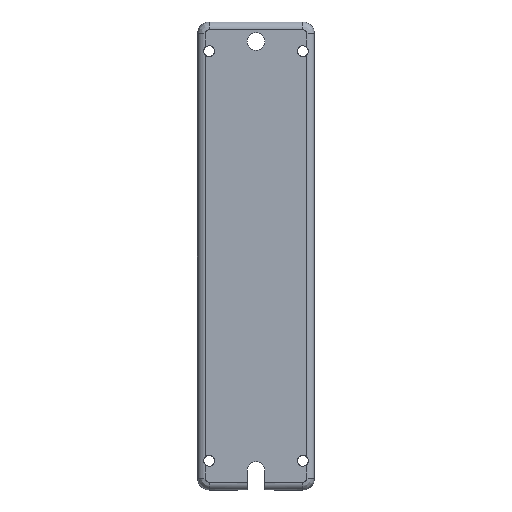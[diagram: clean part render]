
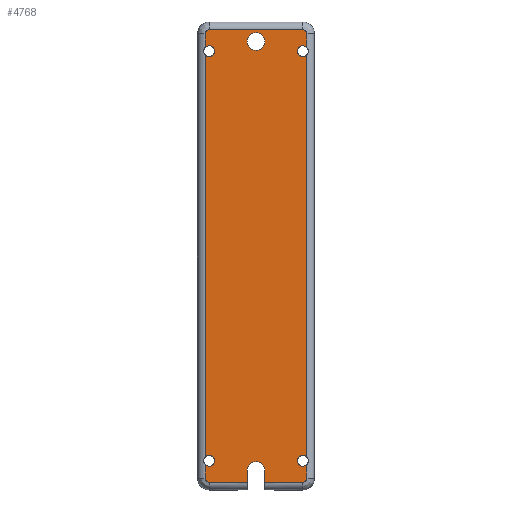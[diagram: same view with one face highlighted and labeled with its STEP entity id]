
A CAD part, front view. The second image highlights one B-rep face of the part: STEP entity #4768.
In plain terms, the highlighted planar face has unit normal (0, -1, 0).
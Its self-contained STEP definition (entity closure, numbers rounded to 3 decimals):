
#638=CARTESIAN_POINT('',(13.,0.,-53.48));
#865=DIRECTION('',(-1.,0.,0.));
#866=VECTOR('',#865,24.);
#867=CARTESIAN_POINT('',(12.,0.,58.));
#868=LINE('',#867,#866);
#1033=CARTESIAN_POINT('',(0.,0.,55.));
#1034=DIRECTION('',(0.,1.,0.));
#1035=DIRECTION('',(0.,0.,1.));
#1036=AXIS2_PLACEMENT_3D('',#1033,#1034,#1035);
#1038=CARTESIAN_POINT('',(0.,0.,55.));
#1039=DIRECTION('',(0.,1.,0.));
#1040=DIRECTION('',(0.,0.,-1.));
#1041=AXIS2_PLACEMENT_3D('',#1038,#1039,#1040);
#1043=DIRECTION('',(-1.,0.,0.));
#1044=VECTOR('',#1043,9.75);
#1045=CARTESIAN_POINT('',(12.,0.,-58.));
#1046=LINE('',#1045,#1044);
#1047=DIRECTION('',(0.,0.,1.));
#1048=VECTOR('',#1047,3.);
#1049=CARTESIAN_POINT('',(2.25,0.,-58.));
#1050=LINE('',#1049,#1048);
#1051=CARTESIAN_POINT('',(0.,0.,-55.));
#1052=DIRECTION('',(0.,1.,0.));
#1053=DIRECTION('',(-1.,0.,0.));
#1054=AXIS2_PLACEMENT_3D('',#1051,#1052,#1053);
#1056=DIRECTION('',(0.,0.,1.));
#1057=VECTOR('',#1056,3.);
#1058=CARTESIAN_POINT('',(-2.25,0.,-58.));
#1059=LINE('',#1058,#1057);
#1060=DIRECTION('',(-1.,0.,0.));
#1061=VECTOR('',#1060,9.75);
#1062=CARTESIAN_POINT('',(-2.25,0.,-58.));
#1063=LINE('',#1062,#1061);
#1064=CARTESIAN_POINT('',(-12.,0.,-57.));
#1065=DIRECTION('',(0.,1.,0.));
#1066=DIRECTION('',(0.,0.,-1.));
#1067=AXIS2_PLACEMENT_3D('',#1064,#1065,#1066);
#1069=DIRECTION('',(0.,0.,1.));
#1070=VECTOR('',#1069,3.52);
#1071=CARTESIAN_POINT('',(-13.,0.,-57.));
#1072=LINE('',#1071,#1070);
#1073=CARTESIAN_POINT('',(-12.,0.,-52.5));
#1074=DIRECTION('',(0.,1.,0.));
#1075=DIRECTION('',(1.,0.,0.));
#1076=AXIS2_PLACEMENT_3D('',#1073,#1074,#1075);
#1078=CARTESIAN_POINT('',(-12.,0.,-52.5));
#1079=DIRECTION('',(0.,1.,0.));
#1080=DIRECTION('',(-0.714,0.,0.7));
#1081=AXIS2_PLACEMENT_3D('',#1078,#1079,#1080);
#1083=DIRECTION('',(0.,0.,1.));
#1084=VECTOR('',#1083,103.04);
#1085=CARTESIAN_POINT('',(-13.,0.,-51.52));
#1086=LINE('',#1085,#1084);
#1087=CARTESIAN_POINT('',(-12.,0.,52.5));
#1088=DIRECTION('',(0.,1.,0.));
#1089=DIRECTION('',(1.,0.,0.));
#1090=AXIS2_PLACEMENT_3D('',#1087,#1088,#1089);
#1092=CARTESIAN_POINT('',(-12.,0.,52.5));
#1093=DIRECTION('',(0.,1.,0.));
#1094=DIRECTION('',(-0.714,0.,0.7));
#1095=AXIS2_PLACEMENT_3D('',#1092,#1093,#1094);
#1097=DIRECTION('',(0.,0.,1.));
#1098=VECTOR('',#1097,3.52);
#1099=CARTESIAN_POINT('',(-13.,0.,53.48));
#1100=LINE('',#1099,#1098);
#1101=CARTESIAN_POINT('',(-12.,0.,57.));
#1102=DIRECTION('',(0.,1.,0.));
#1103=DIRECTION('',(-1.,0.,0.));
#1104=AXIS2_PLACEMENT_3D('',#1101,#1102,#1103);
#1106=CARTESIAN_POINT('',(12.,0.,57.));
#1107=DIRECTION('',(0.,1.,0.));
#1108=DIRECTION('',(0.,0.,1.));
#1109=AXIS2_PLACEMENT_3D('',#1106,#1107,#1108);
#1111=DIRECTION('',(0.,0.,-1.));
#1112=VECTOR('',#1111,3.52);
#1113=CARTESIAN_POINT('',(13.,0.,57.));
#1114=LINE('',#1113,#1112);
#1115=CARTESIAN_POINT('',(12.,0.,52.5));
#1116=DIRECTION('',(0.,1.,0.));
#1117=DIRECTION('',(-1.,0.,0.));
#1118=AXIS2_PLACEMENT_3D('',#1115,#1116,#1117);
#1120=CARTESIAN_POINT('',(12.,0.,52.5));
#1121=DIRECTION('',(0.,1.,0.));
#1122=DIRECTION('',(0.714,0.,-0.7));
#1123=AXIS2_PLACEMENT_3D('',#1120,#1121,#1122);
#1125=DIRECTION('',(0.,0.,-1.));
#1126=VECTOR('',#1125,103.04);
#1127=CARTESIAN_POINT('',(13.,0.,51.52));
#1128=LINE('',#1127,#1126);
#1129=CARTESIAN_POINT('',(12.,0.,-52.5));
#1130=DIRECTION('',(0.,1.,0.));
#1131=DIRECTION('',(-1.,0.,0.));
#1132=AXIS2_PLACEMENT_3D('',#1129,#1130,#1131);
#1134=CARTESIAN_POINT('',(12.,0.,-52.5));
#1135=DIRECTION('',(0.,1.,0.));
#1136=DIRECTION('',(0.714,0.,-0.7));
#1137=AXIS2_PLACEMENT_3D('',#1134,#1135,#1136);
#1139=DIRECTION('',(0.,0.,-1.));
#1140=VECTOR('',#1139,3.52);
#1141=CARTESIAN_POINT('',(13.,0.,-53.48));
#1142=LINE('',#1141,#1140);
#1143=CARTESIAN_POINT('',(12.,0.,-57.));
#1144=DIRECTION('',(0.,1.,0.));
#1145=DIRECTION('',(1.,0.,0.));
#1146=AXIS2_PLACEMENT_3D('',#1143,#1144,#1145);
#1593=CARTESIAN_POINT('',(-13.,0.,-53.48));
#1615=CARTESIAN_POINT('',(-13.,0.,51.52));
#1636=CARTESIAN_POINT('',(-13.,0.,53.48));
#1643=CARTESIAN_POINT('',(13.,0.,53.48));
#1665=CARTESIAN_POINT('',(13.,0.,-51.52));
#2838=CARTESIAN_POINT('',(0.,0.,57.25));
#2839=CARTESIAN_POINT('',(0.,0.,52.75));
#2840=VERTEX_POINT('',#2838);
#2841=VERTEX_POINT('',#2839);
#2842=CARTESIAN_POINT('',(-2.25,0.,-55.));
#2843=CARTESIAN_POINT('',(2.25,0.,-55.));
#2844=VERTEX_POINT('',#2842);
#2845=VERTEX_POINT('',#2843);
#2902=CARTESIAN_POINT('',(-10.6,0.,52.5));
#2903=VERTEX_POINT('',#2902);
#2904=CARTESIAN_POINT('',(10.6,0.,52.5));
#2905=VERTEX_POINT('',#2904);
#2906=CARTESIAN_POINT('',(-10.6,0.,-52.5));
#2907=VERTEX_POINT('',#2906);
#2908=CARTESIAN_POINT('',(10.6,0.,-52.5));
#2909=VERTEX_POINT('',#2908);
#3111=CARTESIAN_POINT('',(2.25,0.,-58.));
#3113=VERTEX_POINT('',#3111);
#3114=CARTESIAN_POINT('',(12.,0.,-58.));
#3115=VERTEX_POINT('',#3114);
#3120=CARTESIAN_POINT('',(13.,0.,-57.));
#3121=VERTEX_POINT('',#3120);
#3123=VERTEX_POINT('',#638);
#3124=VERTEX_POINT('',#1665);
#3125=CARTESIAN_POINT('',(13.,0.,51.52));
#3126=VERTEX_POINT('',#3125);
#3128=VERTEX_POINT('',#1643);
#3129=CARTESIAN_POINT('',(13.,0.,57.));
#3130=VERTEX_POINT('',#3129);
#3135=CARTESIAN_POINT('',(12.,0.,58.));
#3136=VERTEX_POINT('',#3135);
#3141=CARTESIAN_POINT('',(-13.,0.,57.));
#3142=CARTESIAN_POINT('',(-12.,0.,58.));
#3143=VERTEX_POINT('',#3141);
#3144=VERTEX_POINT('',#3142);
#3146=VERTEX_POINT('',#1636);
#3147=VERTEX_POINT('',#1615);
#3148=CARTESIAN_POINT('',(-13.,0.,-51.52));
#3149=VERTEX_POINT('',#3148);
#3151=CARTESIAN_POINT('',(-2.25,0.,-58.));
#3153=VERTEX_POINT('',#3151);
#3155=CARTESIAN_POINT('',(-12.,0.,-58.));
#3156=VERTEX_POINT('',#3155);
#3161=CARTESIAN_POINT('',(-13.,0.,-57.));
#3162=VERTEX_POINT('',#3161);
#3163=VERTEX_POINT('',#1593);
#4717=CARTESIAN_POINT('',(-15.,0.,60.));
#4718=DIRECTION('',(0.,-1.,0.));
#4719=DIRECTION('',(0.,0.,-1.));
#4720=AXIS2_PLACEMENT_3D('',#4717,#4718,#4719);
#4721=PLANE('',#4720);
#4723=ORIENTED_EDGE('',*,*,#4722,.T.);
#4725=ORIENTED_EDGE('',*,*,#4724,.T.);
#4727=ORIENTED_EDGE('',*,*,#4726,.F.);
#4729=ORIENTED_EDGE('',*,*,#4728,.F.);
#4731=ORIENTED_EDGE('',*,*,#4730,.T.);
#4733=ORIENTED_EDGE('',*,*,#4732,.T.);
#4734=ORIENTED_EDGE('',*,*,#4455,.T.);
#4736=ORIENTED_EDGE('',*,*,#4735,.F.);
#4738=ORIENTED_EDGE('',*,*,#4737,.F.);
#4739=ORIENTED_EDGE('',*,*,#4449,.T.);
#4741=ORIENTED_EDGE('',*,*,#4740,.F.);
#4743=ORIENTED_EDGE('',*,*,#4742,.F.);
#4744=ORIENTED_EDGE('',*,*,#4443,.T.);
#4745=ORIENTED_EDGE('',*,*,#4482,.T.);
#4746=ORIENTED_EDGE('',*,*,#4497,.F.);
#4748=ORIENTED_EDGE('',*,*,#4747,.T.);
#4749=ORIENTED_EDGE('',*,*,#4230,.T.);
#4751=ORIENTED_EDGE('',*,*,#4750,.F.);
#4753=ORIENTED_EDGE('',*,*,#4752,.F.);
#4754=ORIENTED_EDGE('',*,*,#4224,.T.);
#4756=ORIENTED_EDGE('',*,*,#4755,.F.);
#4757=ORIENTED_EDGE('',*,*,#4200,.F.);
#4758=ORIENTED_EDGE('',*,*,#4219,.T.);
#4760=ORIENTED_EDGE('',*,*,#4759,.T.);
#4761=EDGE_LOOP('',(#4723,#4725,#4727,#4729,#4731,#4733,#4734,#4736,#4738,#4739,
#4741,#4743,#4744,#4745,#4746,#4748,#4749,#4751,#4753,#4754,#4756,#4757,#4758,
#4760));
#4762=FACE_OUTER_BOUND('',#4761,.F.);
#4763=ORIENTED_EDGE('',*,*,#4707,.F.);
#4765=ORIENTED_EDGE('',*,*,#4764,.F.);
#4766=EDGE_LOOP('',(#4763,#4765));
#4767=FACE_BOUND('',#4766,.F.);
#4768=ADVANCED_FACE('',(#4762,#4767),#4721,.T.);
#1037=CIRCLE('',#1036,2.25);
#1042=CIRCLE('',#1041,2.25);
#1055=CIRCLE('',#1054,2.25);
#1068=CIRCLE('',#1067,1.);
#1077=CIRCLE('',#1076,1.4);
#1082=CIRCLE('',#1081,1.4);
#1091=CIRCLE('',#1090,1.4);
#1096=CIRCLE('',#1095,1.4);
#1105=CIRCLE('',#1104,1.);
#1110=CIRCLE('',#1109,1.);
#1119=CIRCLE('',#1118,1.4);
#1124=CIRCLE('',#1123,1.4);
#1133=CIRCLE('',#1132,1.4);
#1138=CIRCLE('',#1137,1.4);
#1147=CIRCLE('',#1146,1.);
#4200=EDGE_CURVE('',#3123,#2909,#1138,.T.);
#4219=EDGE_CURVE('',#3123,#3121,#1142,.T.);
#4224=EDGE_CURVE('',#3126,#3124,#1128,.T.);
#4230=EDGE_CURVE('',#3130,#3128,#1114,.T.);
#4443=EDGE_CURVE('',#3146,#3143,#1100,.T.);
#4449=EDGE_CURVE('',#3149,#3147,#1086,.T.);
#4455=EDGE_CURVE('',#3162,#3163,#1072,.T.);
#4482=EDGE_CURVE('',#3143,#3144,#1105,.T.);
#4497=EDGE_CURVE('',#3136,#3144,#868,.T.);
#4707=EDGE_CURVE('',#2840,#2841,#1037,.T.);
#4722=EDGE_CURVE('',#3115,#3113,#1046,.T.);
#4724=EDGE_CURVE('',#3113,#2845,#1050,.T.);
#4726=EDGE_CURVE('',#2844,#2845,#1055,.T.);
#4728=EDGE_CURVE('',#3153,#2844,#1059,.T.);
#4730=EDGE_CURVE('',#3153,#3156,#1063,.T.);
#4732=EDGE_CURVE('',#3156,#3162,#1068,.T.);
#4735=EDGE_CURVE('',#2907,#3163,#1077,.T.);
#4737=EDGE_CURVE('',#3149,#2907,#1082,.T.);
#4740=EDGE_CURVE('',#2903,#3147,#1091,.T.);
#4742=EDGE_CURVE('',#3146,#2903,#1096,.T.);
#4747=EDGE_CURVE('',#3136,#3130,#1110,.T.);
#4750=EDGE_CURVE('',#2905,#3128,#1119,.T.);
#4752=EDGE_CURVE('',#3126,#2905,#1124,.T.);
#4755=EDGE_CURVE('',#2909,#3124,#1133,.T.);
#4759=EDGE_CURVE('',#3121,#3115,#1147,.T.);
#4764=EDGE_CURVE('',#2841,#2840,#1042,.T.);
